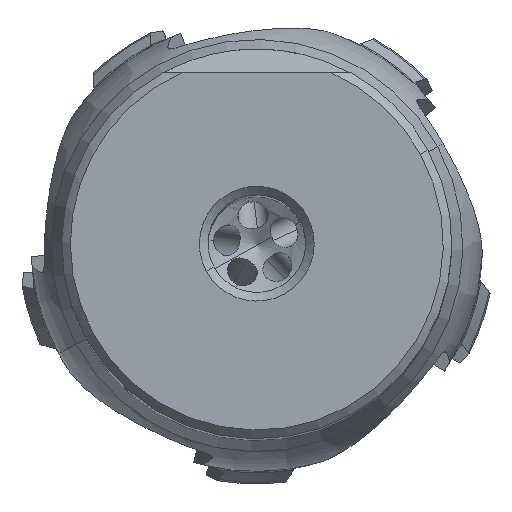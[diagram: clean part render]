
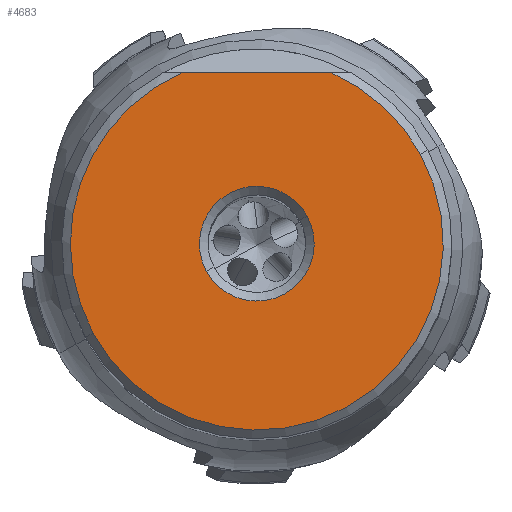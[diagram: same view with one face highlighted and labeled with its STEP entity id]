
A CAD part, top view. The second image highlights one B-rep face of the part: STEP entity #4683.
In plain terms, the highlighted planar face has unit normal (0, 0, 1).
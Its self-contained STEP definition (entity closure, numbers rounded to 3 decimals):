
#4544=AXIS2_PLACEMENT_3D('Circle Axis2P3D',#4542,#4543,$) ;
#4556=AXIS2_PLACEMENT_3D('Circle Axis2P3D',#4554,#4555,$) ;
#4625=AXIS2_PLACEMENT_3D('Circle Axis2P3D',#4623,#4624,$) ;
#4652=AXIS2_PLACEMENT_3D('Plane Axis2P3D',#4649,#4650,#4651) ;
#4656=AXIS2_PLACEMENT_3D('Circle Axis2P3D',#4654,#4655,$) ;
#4663=AXIS2_PLACEMENT_3D('Circle Axis2P3D',#4661,#4662,$) ;
#4532=CARTESIAN_POINT('Vertex',(-4.131,-2.257,0.)) ;
#4539=CARTESIAN_POINT('Vertex',(4.131,2.257,0.)) ;
#4542=CARTESIAN_POINT('Axis2P3D Location',(0.,0.,0.)) ;
#4554=CARTESIAN_POINT('Axis2P3D Location',(0.,0.,0.)) ;
#4620=CARTESIAN_POINT('Vertex',(13.421,7.332,0.)) ;
#4623=CARTESIAN_POINT('Axis2P3D Location',(0.,0.,0.)) ;
#4627=CARTESIAN_POINT('Vertex',(-13.421,-7.332,0.)) ;
#4649=CARTESIAN_POINT('Axis2P3D Location',(-15.293,0.,0.)) ;
#4654=CARTESIAN_POINT('Axis2P3D Location',(0.,0.,0.)) ;
#4658=CARTESIAN_POINT('Vertex',(-6.154,14.,0.)) ;
#4661=CARTESIAN_POINT('Axis2P3D Location',(0.,0.,0.)) ;
#4665=CARTESIAN_POINT('Vertex',(6.154,14.,0.)) ;
#4668=CARTESIAN_POINT('Line Origine',(0.,14.,0.)) ;
#4543=DIRECTION('Axis2P3D Direction',(0.,0.,1.)) ;
#4555=DIRECTION('Axis2P3D Direction',(0.,0.,1.)) ;
#4624=DIRECTION('Axis2P3D Direction',(0.,0.,-1.)) ;
#4650=DIRECTION('Axis2P3D Direction',(0.,0.,1.)) ;
#4651=DIRECTION('Axis2P3D XDirection',(1.,0.,0.)) ;
#4655=DIRECTION('Axis2P3D Direction',(0.,0.,1.)) ;
#4662=DIRECTION('Axis2P3D Direction',(0.,0.,1.)) ;
#4669=DIRECTION('Vector Direction',(1.,0.,0.)) ;
#4670=VECTOR('Line Direction',#4669,1.) ;
#4674=ORIENTED_EDGE('',*,*,#4660,.T.) ;
#4675=ORIENTED_EDGE('',*,*,#4629,.T.) ;
#4676=ORIENTED_EDGE('',*,*,#4667,.T.) ;
#4677=ORIENTED_EDGE('',*,*,#4672,.F.) ;
#4680=ORIENTED_EDGE('',*,*,#4558,.F.) ;
#4681=ORIENTED_EDGE('',*,*,#4546,.F.) ;
#4682=FACE_BOUND('',#4679,.T.) ;
#4683=ADVANCED_FACE('NO_CUT',(#4678,#4682),#4653,.T.) ;
#4545=CIRCLE('generated circle',#4544,4.707) ;
#4557=CIRCLE('generated circle',#4556,4.707) ;
#4626=CIRCLE('generated circle',#4625,15.293) ;
#4657=CIRCLE('generated circle',#4656,15.293) ;
#4664=CIRCLE('generated circle',#4663,15.293) ;
#4546=EDGE_CURVE('',#4540,#4533,#4545,.T.) ;
#4558=EDGE_CURVE('',#4533,#4540,#4557,.T.) ;
#4629=EDGE_CURVE('',#4628,#4621,#4626,.F.) ;
#4660=EDGE_CURVE('',#4659,#4628,#4657,.T.) ;
#4667=EDGE_CURVE('',#4621,#4666,#4664,.T.) ;
#4672=EDGE_CURVE('',#4659,#4666,#4671,.T.) ;
#4673=EDGE_LOOP('',(#4674,#4675,#4676,#4677)) ;
#4679=EDGE_LOOP('',(#4680,#4681)) ;
#4678=FACE_OUTER_BOUND('',#4673,.T.) ;
#4671=LINE('Line',#4668,#4670) ;
#4653=PLANE('',#4652) ;
#4533=VERTEX_POINT('',#4532) ;
#4540=VERTEX_POINT('',#4539) ;
#4621=VERTEX_POINT('',#4620) ;
#4628=VERTEX_POINT('',#4627) ;
#4659=VERTEX_POINT('',#4658) ;
#4666=VERTEX_POINT('',#4665) ;
